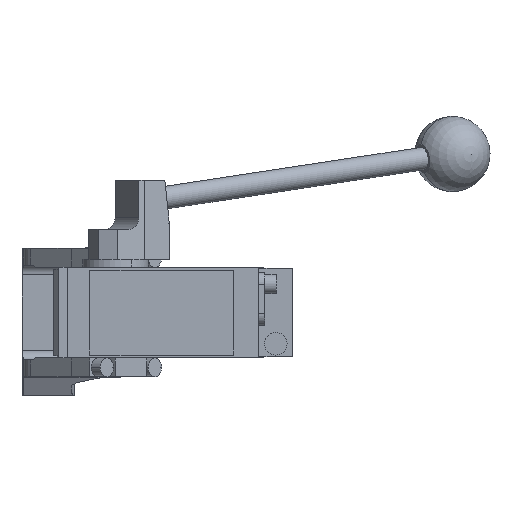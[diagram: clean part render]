
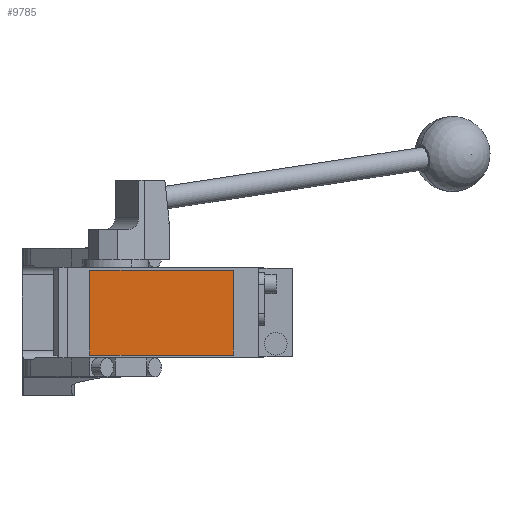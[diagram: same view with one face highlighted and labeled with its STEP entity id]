
A CAD part, front view. The second image highlights one B-rep face of the part: STEP entity #9785.
In plain terms, the highlighted planar face has unit normal (0, -1, 0).
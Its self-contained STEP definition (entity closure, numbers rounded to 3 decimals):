
#197 = DIRECTION ( 'NONE',  ( 0., 0., 1. ) ) ;
#396 = LINE ( 'NONE', #3565, #1182 ) ;
#438 = ORIENTED_EDGE ( 'NONE', *, *, #8602, .T. ) ;
#453 = VERTEX_POINT ( 'NONE', #5899 ) ;
#817 = FACE_OUTER_BOUND ( 'NONE', #5478, .T. ) ;
#938 = CARTESIAN_POINT ( 'NONE',  ( -7., -280.5, 22.5 ) ) ;
#1182 = VECTOR ( 'NONE', #11616, 1000. ) ;
#1590 = VERTEX_POINT ( 'NONE', #938 ) ;
#1753 = ORIENTED_EDGE ( 'NONE', *, *, #14379, .T. ) ;
#1857 = VECTOR ( 'NONE', #4386, 1000. ) ;
#2176 = VECTOR ( 'NONE', #197, 1000. ) ;
#3148 = DIRECTION ( 'NONE',  ( 0., 0., -1. ) ) ;
#3283 = ORIENTED_EDGE ( 'NONE', *, *, #6299, .T. ) ;
#3565 = CARTESIAN_POINT ( 'NONE',  ( -7., -280.5, 22.5 ) ) ;
#4208 = LINE ( 'NONE', #5324, #12574 ) ;
#4386 = DIRECTION ( 'NONE',  ( 1., 0., 0. ) ) ;
#4503 = VERTEX_POINT ( 'NONE', #10089 ) ;
#5324 = CARTESIAN_POINT ( 'NONE',  ( -7., -280.5, 22.5 ) ) ;
#5478 = EDGE_LOOP ( 'NONE', ( #12451, #3283, #1753, #438 ) ) ;
#5899 = CARTESIAN_POINT ( 'NONE',  ( 69., -280.5, -22.5 ) ) ;
#6299 = EDGE_CURVE ( 'NONE', #4503, #453, #9268, .T. ) ;
#7675 = PLANE ( 'NONE',  #9189 ) ;
#8096 = LINE ( 'NONE', #9168, #2176 ) ;
#8602 = EDGE_CURVE ( 'NONE', #9293, #1590, #396, .T. ) ;
#9168 = CARTESIAN_POINT ( 'NONE',  ( 69., -280.5, 22.5 ) ) ;
#9189 = AXIS2_PLACEMENT_3D ( 'NONE', #12270, #10926, #13322 ) ;
#9268 = LINE ( 'NONE', #13634, #1857 ) ;
#9293 = VERTEX_POINT ( 'NONE', #10528 ) ;
#9785 = ADVANCED_FACE ( 'NONE', ( #817 ), #7675, .T. ) ;
#10089 = CARTESIAN_POINT ( 'NONE',  ( -7., -280.5, -22.5 ) ) ;
#10334 = EDGE_CURVE ( 'NONE', #1590, #4503, #4208, .T. ) ;
#10528 = CARTESIAN_POINT ( 'NONE',  ( 69., -280.5, 22.5 ) ) ;
#10926 = DIRECTION ( 'NONE',  ( 0., -1., 0. ) ) ;
#11616 = DIRECTION ( 'NONE',  ( -1., 0., 0. ) ) ;
#12270 = CARTESIAN_POINT ( 'NONE',  ( 0., -280.5, 0. ) ) ;
#12451 = ORIENTED_EDGE ( 'NONE', *, *, #10334, .T. ) ;
#12574 = VECTOR ( 'NONE', #3148, 1000. ) ;
#13322 = DIRECTION ( 'NONE',  ( 0., 0., -1. ) ) ;
#13634 = CARTESIAN_POINT ( 'NONE',  ( -7., -280.5, -22.5 ) ) ;
#14379 = EDGE_CURVE ( 'NONE', #453, #9293, #8096, .T. ) ;
